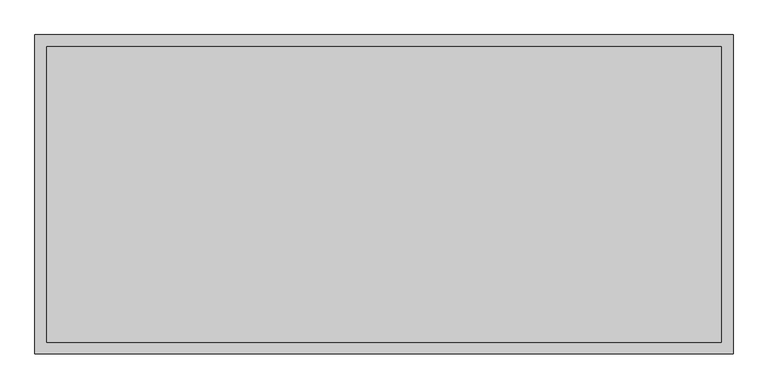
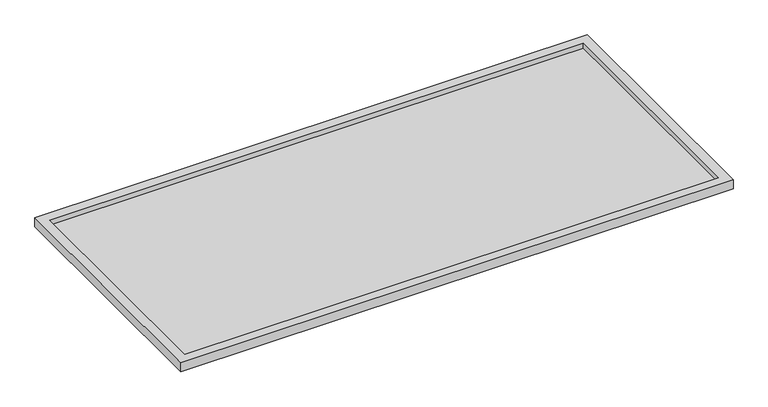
"""IFC4 building model written with IfcOpenShell, lengths in millimetres: proxy geometry, PLATO DE DUCHA : Plato de Ducha 135x295 cm."""

from ifc_helpers import new_model, si_unit, frame, origin, place, context, project, spatial, polyline, outline, extrude, faceted_brep, source, transform, mapped, element, save


def generic_models_903727d3(model_context):
    return source(origin(), model_context, "Body", "SolidModel", [
        extrude(outline(polyline([(-1425.0, 625.0), (1425.0, 625.0), (1425.0, -625.0), (-1425.0, -625.0), (-1425.0, 625.0)])), frame((0.0, 0.0, 20.0), z_axis=(0.0, 0.0, 1.0), x_axis=(1.0, 0.0, 0.0)), (0.0, 0.0, 1.0), 1.9779388),
        faceted_brep([(1475.0, 675.0, 0.0), (1475.0, 675.0, 50.0), (1475.0, -675.0, 50.0), (1475.0, -675.0, 0.0), (1472.5, 672.5, 47.5), (1472.5, 672.5, 0.0), (1472.5, -672.5, 0.0), (1472.5, -672.5, 47.5), (1427.5, 627.5, 20.0), (1427.5, 627.5, 47.5), (1427.5, -627.5, 47.5), (1427.5, -627.5, 20.0), (1425.0, 625.0, 50.0), (1425.0, 625.0, 20.0), (1425.0, -625.0, 20.0), (1425.0, -625.0, 50.0), (-1475.0, -675.0, 50.0), (-1475.0, -675.0, 0.0), (-1472.5, -672.5, 0.0), (-1472.5, -672.5, 47.5), (-1427.5, -627.5, 47.5), (-1427.5, -627.5, 20.0), (-1425.0, -625.0, 20.0), (-1425.0, -625.0, 50.0), (-1475.0, 675.0, 50.0), (-1475.0, 675.0, 0.0), (-1472.5, 672.5, 0.0), (-1472.5, 672.5, 47.5), (-1427.5, 627.5, 47.5), (-1427.5, 627.5, 20.0), (-1425.0, 625.0, 20.0), (-1425.0, 625.0, 50.0)], [[[0, 1, 2, 3]], [[4, 5, 6, 7]], [[8, 9, 10, 11]], [[12, 13, 14, 15]], [[3, 2, 16, 17]], [[7, 6, 18, 19]], [[11, 10, 20, 21]], [[15, 14, 22, 23]], [[17, 16, 24, 25]], [[19, 18, 26, 27]], [[21, 20, 28, 29]], [[23, 22, 30, 31]], [[25, 24, 1, 0]], [[3, 17, 25, 0], [5, 26, 18, 6]], [[27, 26, 5, 4]], [[7, 19, 27, 4], [9, 28, 20, 10]], [[29, 28, 9, 8]], [[11, 21, 29, 8], [13, 30, 22, 14]], [[31, 30, 13, 12]], [[1, 24, 16, 2], [15, 23, 31, 12]]]),
    ])


if __name__ == "__main__":
    model = new_model("IFC4")
    model_context = context("Model", 3, world=origin())
    ifc_project = project(units=[si_unit("LENGTHUNIT", "METRE", prefix="MILLI")], contexts=[model_context])
    site = spatial("IfcSite", under=ifc_project)
    building = spatial("IfcBuilding", under=site)
    placement = place(None, origin())
    generic_models_shape = generic_models_903727d3(model_context)
    element("IfcBuildingElementProxy", 1, Name="PLATO DE DUCHA : Plato de Ducha 135x295 cm", ObjectType="PLATO DE DUCHA : Plato de Ducha 135x295 cm", at=placement, inside=building, context=model_context, shape_type="MappedRepresentation", body=[
        mapped(generic_models_shape, transform((0.0, 0.0, 0.0), x_axis=(1.0, 0.0, 0.0), y_axis=(0.0, 1.0, 0.0), z_axis=(0.0, 0.0, 1.0))),
    ])
    save(model, "model.ifc")
